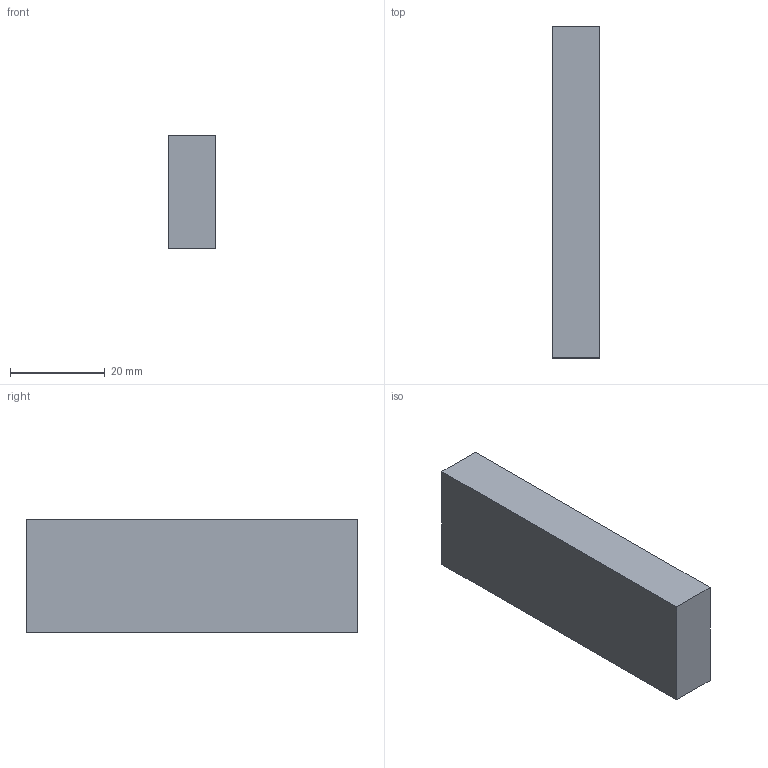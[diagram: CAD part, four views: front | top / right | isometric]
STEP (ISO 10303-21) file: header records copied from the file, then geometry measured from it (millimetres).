
FILE_DESCRIPTION(('Open CASCADE Model'),'2;1');
FILE_NAME('Open CASCADE Shape Model','2026-10-10T15:34:58',('Author'),( 'Open CASCADE'),'Open CASCADE STEP processor 7.9','Open CASCADE 7.9' ,'Unknown');
FILE_SCHEMA(('AUTOMOTIVE_DESIGN { 1 0 10303 214 1 1 1 1 }'));
Length unit declared in the file: millimetre
Products named in the file (1): Open CASCADE STEP translator 7.9 35
Bounding box: 10 x 70 x 24 mm (x, y, z)
Volume: 16800 mm3; surface area: 5240 mm2
Topology: 1 solids, 1 shells, 6 faces, 12 edges, 8 vertices
Faces by surface type: plane 6
Entity records: 322 total; most frequent: CARTESIAN_POINT 51, DIRECTION 50, LINE 36, VECTOR 36, ORIENTED_EDGE 24, PCURVE 24, DEFINITIONAL_REPRESENTATION 24, EDGE_CURVE 12
